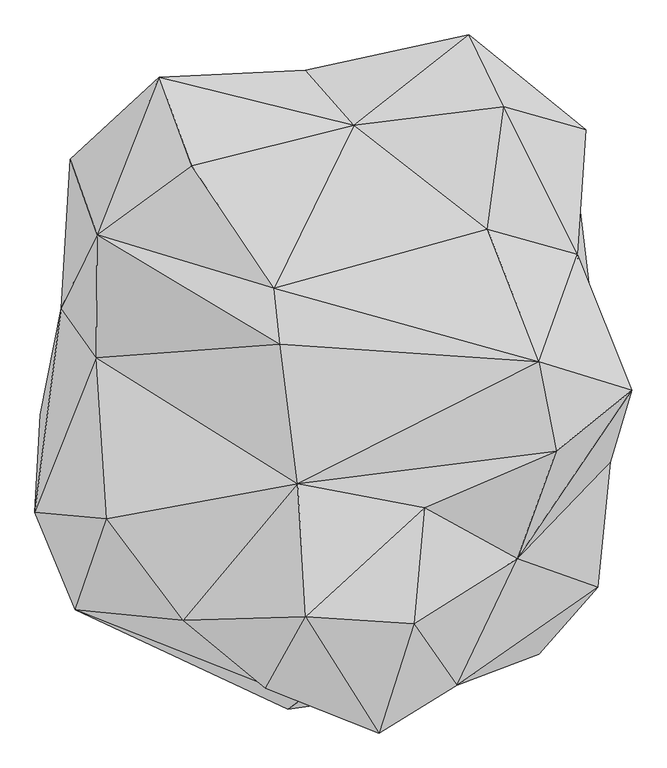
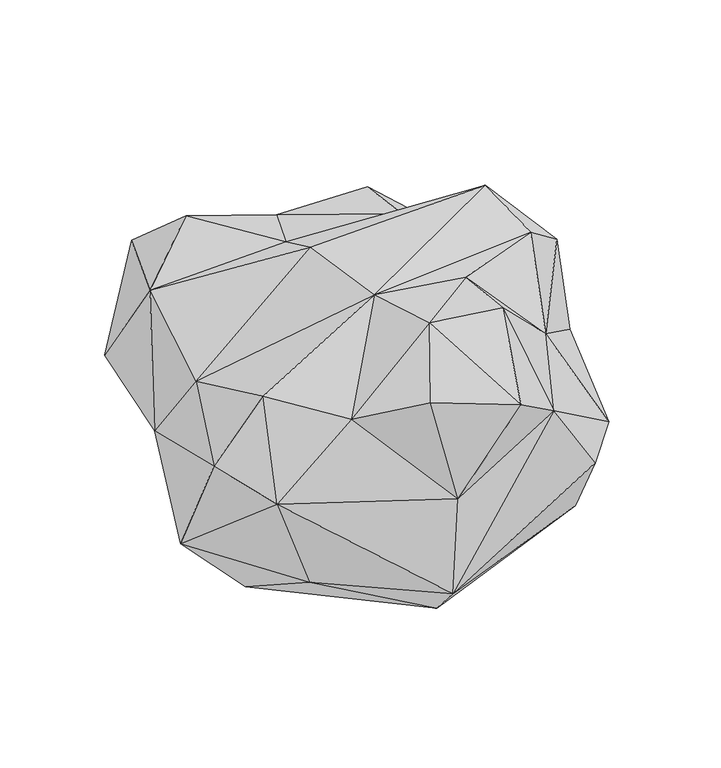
"""IFC4 building model written with IfcOpenShell, lengths in millimetres: geographic element geometry, Enscape AssetDefinition - Asparagaceae 001 Agave : Enscape AssetDefinition - Asparagaceae 001 Agave 4."""

import ifcopenshell
import ifcopenshell.guid

model = None  # the IFC model being written
_history = None  # IfcOwnerHistory: only IFC2X3 demands one
_inside = {}  # id of a spatial element -> (the spatial element, [elements in it])
_under = {}  # id of a project, library or spatial element -> (it, [spatial elements below it])
_declared = {}  # id of a project -> (the project, [libraries it declares])
_typed = {}  # id of a type object -> (the type object, [elements of that type])
_made_of = {}  # id of a material, layer set ... -> (it, [elements and type objects made of it])


def new_model(schema):
    """Start an empty IFC model of exactly this schema.

    Asked for "IFC4X3", IfcOpenShell would pick the latest addendum, in which some entities
    have other attributes; the version numbers below select the first issue.
    IFC2X3 requires an IfcOwnerHistory on every rooted entity: one is made here for all.
    """
    global model, _history
    if schema == "IFC4X3":
        model = ifcopenshell.file(schema_version=(4, 3, 0, 0))
    else:
        model = ifcopenshell.file(schema=schema)
    _inside.clear()
    _under.clear()
    _declared.clear()
    _typed.clear()
    _made_of.clear()
    _history = None
    if model.schema == "IFC2X3":
        org = make("IfcOrganization", Name="unknown")
        user = make(
            "IfcPersonAndOrganization",
            ThePerson=make("IfcPerson", FamilyName="unknown"),
            TheOrganization=org,
        )
        app = make(
            "IfcApplication",
            ApplicationDeveloper=org,
            Version="unknown",
            ApplicationFullName="unknown",
            ApplicationIdentifier="unknown",
        )
        _history = make(
            "IfcOwnerHistory",
            OwningUser=user,
            OwningApplication=app,
            ChangeAction="ADDED",
            CreationDate=0,
        )
    return model


def make(cls, **values):
    """One entity of the class cls with the attributes given. An attribute that is None is left unset."""
    return model.create_entity(
        cls, **{name: value for name, value in values.items() if value is not None}
    )


def rooted(cls, **values):
    """An entity with a GlobalId (a new one), such as an element, a storey or a relation."""
    return make(cls, GlobalId=ifcopenshell.guid.new(), OwnerHistory=_history, **values)


def si_unit(unit_type, name, prefix=None):
    """IfcSIUnit, for example si_unit("LENGTHUNIT", "METRE", prefix="MILLI")."""
    return make("IfcSIUnit", UnitType=unit_type, Prefix=prefix, Name=name)


def assignment(units):
    """IfcUnitAssignment: the units of a project."""
    return None if units is None else make("IfcUnitAssignment", Units=units)


def point(xyz):
    """IfcCartesianPoint."""
    return None if xyz is None else make("IfcCartesianPoint", Coordinates=xyz)


def direction(xyz):
    """IfcDirection."""
    return None if xyz is None else make("IfcDirection", DirectionRatios=xyz)


def frame(location, z_axis=None, x_axis=None):
    """IfcAxis2Placement3D, a coordinate frame: its origin and axes. An axis left out is left unset."""
    return make(
        "IfcAxis2Placement3D",
        Location=point(location),
        Axis=direction(z_axis),
        RefDirection=direction(x_axis),
    )


def origin():
    """The frame at (0, 0, 0) with its axes left unset."""
    return frame((0.0, 0.0, 0.0))


def place(relative_to, where):
    """IfcLocalPlacement: puts the frame where relative to a parent placement (None: the world)."""
    return make(
        "IfcLocalPlacement", PlacementRelTo=relative_to, RelativePlacement=where
    )


def context(
    kind, dimensions, precision=None, world=None, true_north=None, identifier=None
):
    """IfcGeometricRepresentationContext, for example the 3D "Model" context."""
    return make(
        "IfcGeometricRepresentationContext",
        ContextIdentifier=identifier,
        ContextType=kind,
        CoordinateSpaceDimension=dimensions,
        Precision=precision,
        WorldCoordinateSystem=world,
        TrueNorth=true_north,
    )


def project(units=None, contexts=None):
    """IfcProject with its units and contexts."""
    return rooted(
        "IfcProject",
        Name="project",
        RepresentationContexts=contexts,
        UnitsInContext=assignment(units),
    )


def spatial(cls, under=None, at=None, **own):
    """A site, building, storey or space (cls), placed at a placement, below another one or the project."""
    s = rooted(cls, ObjectPlacement=at, **own)
    if under is not None:
        _under.setdefault(under.id(), (under, []))[1].append(s)
    return s


def point_list(points):
    """IfcCartesianPointList2D or 3D."""
    cls = (
        "IfcCartesianPointList2D" if len(points[0]) == 2 else "IfcCartesianPointList3D"
    )
    return make(cls, CoordList=points)


def triangles(points, corners, closed=None, point_numbers=None):
    """IfcTriangulatedFaceSet: each triangle names its three corners, points numbered from 1."""
    return make(
        "IfcTriangulatedFaceSet",
        Coordinates=point_list(points),
        Closed=closed,
        CoordIndex=corners,
        PnIndex=point_numbers,
    )


def shape(context_of_items, identifier, shape_type, items):
    """IfcShapeRepresentation: the items that make up one representation, for example the "Body"."""
    return make(
        "IfcShapeRepresentation",
        ContextOfItems=context_of_items,
        RepresentationIdentifier=identifier,
        RepresentationType=shape_type,
        Items=items,
    )


def source(mapping_origin, context_of_items, identifier, shape_type, items):
    """IfcRepresentationMap: a shape defined once, which mapped items show again and again."""
    return make(
        "IfcRepresentationMap",
        MappingOrigin=mapping_origin,
        MappedRepresentation=shape(context_of_items, identifier, shape_type, items),
    )


def transform(
    local_origin,
    x_axis=None,
    y_axis=None,
    z_axis=None,
    scale=None,
    scale2=None,
    scale3=None,
    uniform=True,
):
    """IfcCartesianTransformationOperator3D, or its non-uniform kind. x_axis, y_axis, z_axis: its Axis1, 2, 3."""
    if uniform:
        return make(
            "IfcCartesianTransformationOperator3D",
            Axis1=direction(x_axis),
            Axis2=direction(y_axis),
            LocalOrigin=point(local_origin),
            Scale=scale,
            Axis3=direction(z_axis),
        )
    return make(
        "IfcCartesianTransformationOperator3DnonUniform",
        Axis1=direction(x_axis),
        Axis2=direction(y_axis),
        LocalOrigin=point(local_origin),
        Scale=scale,
        Axis3=direction(z_axis),
        Scale2=scale2,
        Scale3=scale3,
    )


def mapped(mapping_source, mapping_target):
    """IfcMappedItem: shows the shape of a source again, moved by a transform."""
    return make(
        "IfcMappedItem", MappingSource=mapping_source, MappingTarget=mapping_target
    )


def made_of(thing, what):
    """Note that an element or type object is made of a material, layer set ...; save() writes the relation."""
    if what is not None:
        _made_of.setdefault(what.id(), (what, []))[1].append(thing)
    return thing


def element(
    cls,
    number,
    at=None,
    inside=None,
    cuts=None,
    type_object=None,
    material=None,
    context=None,
    identifier="Body",
    shape_type=None,
    held_by="IfcProductDefinitionShape",
    body=None,
    shapes=None,
    **own,
):
    """One element of the class cls, such as IfcWall. Its Tag is "e" and its number.

    at: its placement. inside: the storey or other place that contains it. cuts: it is an
    opening in that element (IfcRelVoidsElement). A single representation is given by context,
    identifier, shape_type and body (its items); several are given by shapes. held_by: the class
    of the entity that holds the representations. save() writes the other relations.
    """
    e = rooted(cls, Tag="e%d" % number, ObjectPlacement=at, **own)
    if body is not None:
        shapes = [shape(context, identifier, shape_type, body)]
    if shapes is not None:
        e.Representation = make(held_by, Representations=shapes)
    if inside is not None:
        _inside.setdefault(inside.id(), (inside, []))[1].append(e)
    if cuts is not None:
        rooted(
            "IfcRelVoidsElement", RelatingBuildingElement=cuts, RelatedOpeningElement=e
        )
    if type_object is not None:
        _typed.setdefault(type_object.id(), (type_object, []))[1].append(e)
    return made_of(e, material)


def aggregate(whole, parts):
    """IfcRelAggregates: a whole, such as a stair, and the parts it consists of."""
    return rooted("IfcRelAggregates", RelatingObject=whole, RelatedObjects=parts)


def save(model, path):
    """Write the relations noted so far, then the file.

    IfcRelAggregates (storeys below a building ...), IfcRelContainedInSpatialStructure (elements
    in a storey), IfcRelDefinesByType, IfcRelAssociatesMaterial and IfcRelDeclares: one each for
    every whole, place, type object, material and project.
    """
    for whole, parts in _under.values():
        aggregate(whole, parts)
    for where, things in _inside.values():
        rooted(
            "IfcRelContainedInSpatialStructure",
            RelatedElements=things,
            RelatingStructure=where,
        )
    for kind, things in _typed.values():
        rooted("IfcRelDefinesByType", RelatedObjects=things, RelatingType=kind)
    for what, things in _made_of.values():
        rooted("IfcRelAssociatesMaterial", RelatedObjects=things, RelatingMaterial=what)
    for by, libraries in _declared.values():
        rooted("IfcRelDeclares", RelatingContext=by, RelatedDefinitions=libraries)
    model.write(path)


def geographic_element_4c54da16(model_context):
    return source(origin(), model_context, "Body", "Tessellation", [
        triangles([(18.9249327, 469.5844548, 71.849557), (101.2576366, 93.7644893, 0.0), (-125.5721226, 304.1620666, 0.0), (269.3679694, 96.1093316, 0.0), (194.8203213, 625.9733465, 282.8123341), (81.3847489, -55.9599927, 0.0), (-102.6436439, -471.123278, 119.9106132), (340.3339502, -364.0192051, 198.2315775), (421.604462, -49.189394, 89.9008988), (-557.1382313, -34.0430324, 202.5742085), (-360.5856937, 481.2482051, 335.8347336), (-463.5069551, 45.5681443, 100.1967547), (-423.1840167, -111.2969584, 76.8163414), (-366.7333563, -319.6257666, 196.0173231), (-111.7662611, -562.851509, 221.4152641), (338.9449725, -464.0355929, 385.5446717), (-566.5798061, -209.1998942, 537.3125519), (-300.027308, -403.1978093, 698.4716103), (-494.3383218, -384.8240762, 508.4740505), (-437.8130293, -220.8300164, 702.6935183), (51.4376079, -605.9314376, 740.9801348), (-87.6806946, -545.5853027, 479.3064995), (-80.2929642, -397.2070776, 900.0000069), (-456.5370317, 68.038298, 578.8157235), (-519.295374, 156.4258807, 402.5210338), (-454.8065778, 288.994097, 709.3731977), (-343.3247561, 571.4214074, 644.3955505), (-125.8497401, 92.3352706, 838.6469204), (-94.9568856, -158.5760765, 841.502124), (-136.4986814, 192.1129284, 798.1919769), (6.8416853, 485.1903337, 648.8761637), (-285.2518654, 412.1457006, 792.8884489), (-340.6390552, 562.7300411, 426.2198416), (-503.393583, 423.9810611, 455.0769828), (-80.62116, 583.4921459, 472.1971224), (213.5370386, 647.3114336, 437.4631233), (246.0262801, 298.5736359, 681.5640667), (423.5323239, 477.1212041, 474.4093057), (276.3952113, 518.0885799, 615.4933176), (408.1452544, 253.6993946, 573.1230841), (327.5092243, 509.2497663, 220.8812306), (505.9664274, 9.1302198, 691.8340794), (409.9745759, 359.2105597, 281.2036569), (444.5653061, -344.4091739, 395.6717789), (467.2923709, -119.9748262, 520.7940107), (369.9991817, -100.3580821, 825.8435595), (338.7195866, 60.8233859, 876.4657602), (300.2735503, -293.3045897, 670.9046156), (191.9244588, -519.8120939, 622.2976988), (114.1685218, -409.3803535, 882.2873526), (133.4460334, -201.1655554, 838.3953369), (-151.931424, -525.6228221, 769.5366039)], [[21, 23, 52], [51, 29, 23], [21, 50, 23], [23, 50, 51], [50, 21, 49], [16, 44, 49], [44, 48, 49], [48, 51, 50], [50, 49, 48], [46, 29, 51], [51, 48, 46], [46, 47, 29], [47, 46, 42], [42, 46, 48], [9, 45, 44], [44, 45, 48], [42, 48, 45], [43, 45, 9], [4, 43, 9], [43, 4, 41], [43, 40, 45], [47, 42, 40], [45, 40, 42], [38, 40, 43], [43, 41, 38], [36, 38, 41], [36, 41, 5], [38, 39, 40], [39, 38, 36], [39, 37, 40], [47, 40, 37], [37, 39, 31], [39, 36, 31], [31, 36, 35], [36, 5, 35], [35, 5, 11], [33, 35, 11], [34, 33, 11], [27, 35, 33], [27, 33, 34], [27, 31, 35], [31, 27, 32], [30, 31, 32], [47, 37, 30], [31, 30, 37], [47, 28, 29], [47, 30, 28], [26, 27, 34], [28, 30, 26], [26, 32, 27], [30, 32, 26], [26, 34, 25], [11, 10, 25], [25, 34, 11], [28, 24, 29], [24, 28, 26], [26, 25, 24], [17, 25, 10], [25, 17, 24], [29, 24, 20], [24, 17, 20], [18, 29, 20], [23, 29, 18], [52, 23, 18], [49, 21, 22], [21, 52, 22], [52, 18, 22], [19, 18, 20], [18, 19, 22], [10, 19, 17], [17, 19, 20], [14, 19, 10], [15, 49, 22], [49, 15, 16], [15, 19, 14], [22, 19, 15], [8, 44, 16], [16, 15, 8], [44, 8, 9], [15, 14, 7], [8, 15, 7], [13, 7, 14], [14, 10, 13], [12, 13, 10], [10, 11, 12], [7, 6, 8], [12, 6, 13], [6, 4, 9], [9, 8, 6], [6, 7, 13], [3, 6, 12], [3, 12, 11], [2, 4, 6], [3, 2, 6], [11, 5, 1], [5, 41, 1], [41, 4, 1], [1, 3, 11], [1, 4, 2], [1, 2, 3]]),
    ])


if __name__ == "__main__":
    model = new_model("IFC4")
    model_context = context("Model", 3, world=origin())
    ifc_project = project(units=[si_unit("LENGTHUNIT", "METRE", prefix="MILLI")], contexts=[model_context])
    site = spatial("IfcSite", under=ifc_project)
    building = spatial("IfcBuilding", under=site)
    placement = place(None, origin())
    geographic_element_shape = geographic_element_4c54da16(model_context)
    element("IfcGeographicElement", 1, ObjectType="Enscape AssetDefinition - Asparagaceae 001 Agave : Enscape AssetDefinition - Asparagaceae 001 Agave 4", at=placement, inside=building, context=model_context, shape_type="MappedRepresentation", body=[
        mapped(geographic_element_shape, transform((0.0, 0.0, 0.0), x_axis=(1.0, 0.0, 0.0), y_axis=(0.0, 1.0, 0.0), z_axis=(0.0, 0.0, 1.0))),
    ])
    save(model, "model.ifc")
